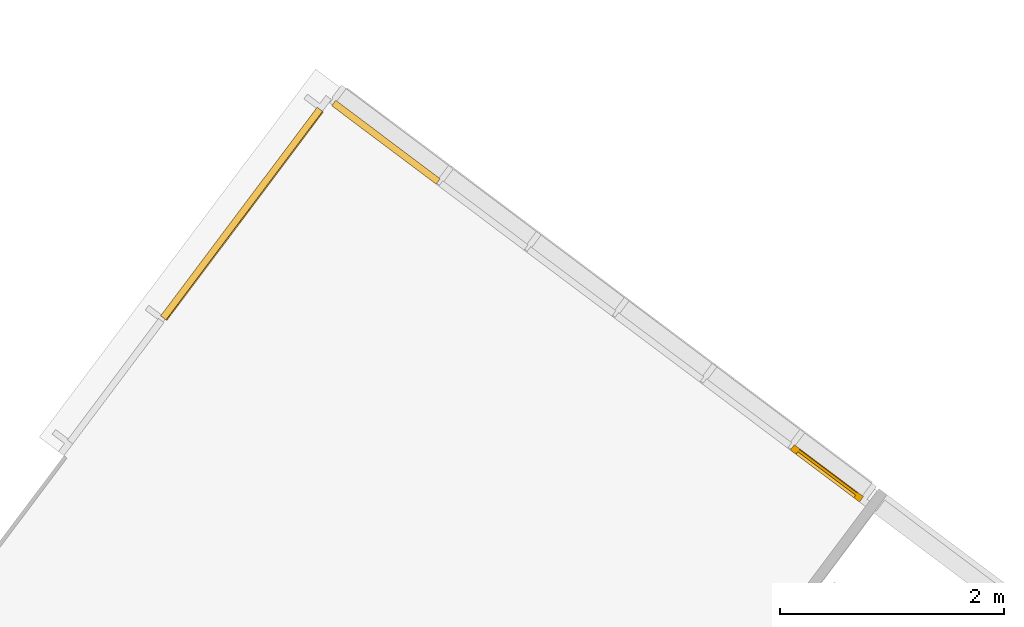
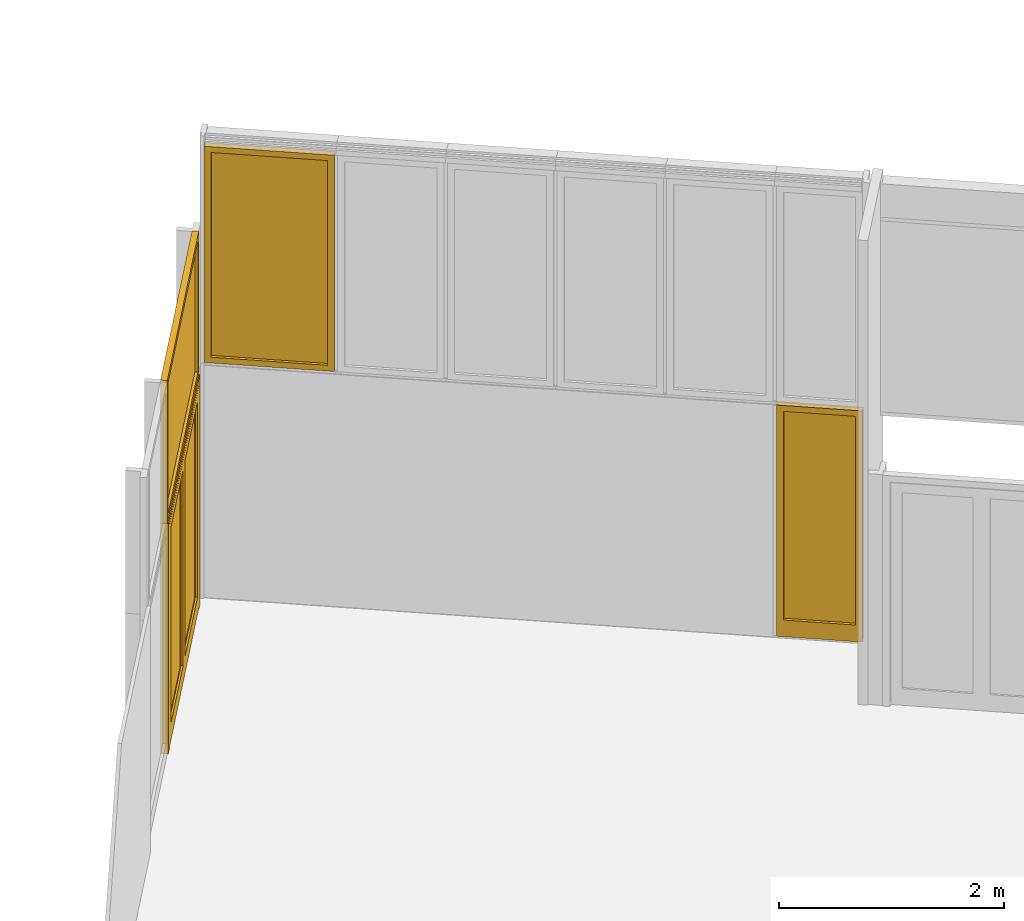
# One storey, part 13 of 15: 3 windows, 1 door, 2 elements without a shape of their own.
"""IFC2X3 building model written with IfcOpenShell, lengths in metres."""

from ifc_helpers import new_model, entity, si_unit, converted_unit, derived_unit, direction, frame, origin, place, context, subcontext, project, spatial, faceted_brep, source, transform, mapped, material, material_list, type_object, type_shapes, element, aggregate, save


model = new_model("IFC2X3")

# Units and contexts
model_context = context("Model", 3, precision=1e-05, world=origin(), true_north=direction((6.123031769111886e-17, 1.0)))
body_context = subcontext(model_context, "Body", "Model", "MODEL_VIEW")
ifc_project = project(units=[si_unit("LENGTHUNIT", "METRE"), si_unit("AREAUNIT", "SQUARE_METRE"), si_unit("VOLUMEUNIT", "CUBIC_METRE"), converted_unit("PLANEANGLEUNIT", "DEGREE", entity("IfcRatioMeasure", 0.017453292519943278), si_unit("PLANEANGLEUNIT", "RADIAN"), dimensions=[0, 0, 0, 0, 0, 0, 0]), si_unit("MASSUNIT", "GRAM", prefix="KILO"), derived_unit("MASSDENSITYUNIT", [(si_unit("MASSUNIT", "GRAM", prefix="KILO"), 1), (si_unit("LENGTHUNIT", "METRE"), -3)]), derived_unit("IONCONCENTRATIONUNIT", [(si_unit("MASSUNIT", "GRAM", prefix="KILO"), 1), (si_unit("LENGTHUNIT", "METRE"), -3)]), derived_unit("MOMENTOFINERTIAUNIT", [(si_unit("LENGTHUNIT", "METRE"), 4)]), si_unit("TIMEUNIT", "SECOND"), si_unit("FREQUENCYUNIT", "HERTZ"), si_unit("THERMODYNAMICTEMPERATUREUNIT", "DEGREE_CELSIUS"), derived_unit("THERMALTRANSMITTANCEUNIT", [(si_unit("MASSUNIT", "GRAM", prefix="KILO"), 1), (si_unit("THERMODYNAMICTEMPERATUREUNIT", "KELVIN"), -1), (si_unit("TIMEUNIT", "SECOND"), -3)]), derived_unit("THERMALCONDUCTANCEUNIT", [(si_unit("MASSUNIT", "GRAM", prefix="KILO"), 1), (si_unit("THERMODYNAMICTEMPERATUREUNIT", "KELVIN"), -1), (si_unit("TIMEUNIT", "SECOND"), -3), (si_unit("LENGTHUNIT", "METRE"), 1)]), derived_unit("VOLUMETRICFLOWRATEUNIT", [(si_unit("LENGTHUNIT", "METRE"), 3), (si_unit("TIMEUNIT", "SECOND"), -1)]), derived_unit("MASSFLOWRATEUNIT", [(si_unit("MASSUNIT", "GRAM", prefix="KILO"), 1), (si_unit("TIMEUNIT", "SECOND"), -1)]), derived_unit("ROTATIONALFREQUENCYUNIT", [(si_unit("TIMEUNIT", "SECOND"), -1)]), si_unit("ELECTRICCURRENTUNIT", "AMPERE"), si_unit("ELECTRICVOLTAGEUNIT", "VOLT"), si_unit("POWERUNIT", "WATT"), si_unit("FORCEUNIT", "NEWTON", prefix="KILO"), si_unit("ILLUMINANCEUNIT", "LUX"), si_unit("LUMINOUSFLUXUNIT", "LUMEN"), si_unit("LUMINOUSINTENSITYUNIT", "CANDELA"), derived_unit("USERDEFINED", [(si_unit("MASSUNIT", "GRAM", prefix="KILO"), -1), (si_unit("LENGTHUNIT", "METRE"), -2), (si_unit("TIMEUNIT", "SECOND"), 3), (si_unit("LUMINOUSFLUXUNIT", "LUMEN"), 1)]), derived_unit("USERDEFINED", [(si_unit("MASSUNIT", "GRAM", prefix="KILO"), 1), (si_unit("TIMEUNIT", "SECOND"), -3), (si_unit("LENGTHUNIT", "METRE"), 3), (si_unit("ELECTRICCURRENTUNIT", "AMPERE"), -2)]), derived_unit("SOUNDPOWERUNIT", [(si_unit("MASSUNIT", "GRAM", prefix="KILO"), 1), (si_unit("TIMEUNIT", "SECOND"), -3), (si_unit("LENGTHUNIT", "METRE"), 2)]), derived_unit("SOUNDPRESSUREUNIT", [(si_unit("MASSUNIT", "GRAM", prefix="KILO"), 1), (si_unit("LENGTHUNIT", "METRE"), -1), (si_unit("TIMEUNIT", "SECOND"), -2)]), derived_unit("LINEARVELOCITYUNIT", [(si_unit("LENGTHUNIT", "METRE"), 1), (si_unit("TIMEUNIT", "SECOND"), -1)]), si_unit("PRESSUREUNIT", "PASCAL"), derived_unit("USERDEFINED", [(si_unit("MASSUNIT", "GRAM", prefix="KILO"), 1), (si_unit("LENGTHUNIT", "METRE"), -2), (si_unit("TIMEUNIT", "SECOND"), -2)]), derived_unit("LINEARFORCEUNIT", [(si_unit("MASSUNIT", "GRAM", prefix="KILO"), 1), (si_unit("TIMEUNIT", "SECOND"), -2)]), derived_unit("PLANARFORCEUNIT", [(si_unit("MASSUNIT", "GRAM", prefix="KILO"), 1), (si_unit("LENGTHUNIT", "METRE"), -1), (si_unit("TIMEUNIT", "SECOND"), -2)]), derived_unit("SPECIFICHEATCAPACITYUNIT", [(si_unit("THERMODYNAMICTEMPERATUREUNIT", "KELVIN"), -1), (si_unit("LENGTHUNIT", "METRE"), 2), (si_unit("TIMEUNIT", "SECOND"), -2)]), derived_unit("HEATINGVALUEUNIT", [(si_unit("LENGTHUNIT", "METRE"), 2), (si_unit("TIMEUNIT", "SECOND"), -2)]), derived_unit("VAPORPERMEABILITYUNIT", [(si_unit("LENGTHUNIT", "METRE"), -1), (si_unit("TIMEUNIT", "SECOND"), 1)]), derived_unit("DYNAMICVISCOSITYUNIT", [(si_unit("MASSUNIT", "GRAM", prefix="KILO"), 1), (si_unit("TIMEUNIT", "SECOND"), -1), (si_unit("LENGTHUNIT", "METRE"), -1)]), derived_unit("THERMALEXPANSIONCOEFFICIENTUNIT", [(si_unit("THERMODYNAMICTEMPERATUREUNIT", "KELVIN"), -1)]), derived_unit("MODULUSOFELASTICITYUNIT", [(si_unit("MASSUNIT", "GRAM", prefix="KILO"), 1), (si_unit("LENGTHUNIT", "METRE"), -1), (si_unit("TIMEUNIT", "SECOND"), -2)]), derived_unit("ISOTHERMALMOISTURECAPACITYUNIT", [(si_unit("LENGTHUNIT", "METRE"), 3), (si_unit("MASSUNIT", "GRAM", prefix="KILO"), -1)]), derived_unit("MOISTUREDIFFUSIVITYUNIT", [(si_unit("TIMEUNIT", "SECOND"), -1), (si_unit("LENGTHUNIT", "METRE"), 2)])], contexts=[model_context])

# Site, building, storey
site_placement = place(None, frame((0.0, 0.0, 235.0), z_axis=(0.0, 0.0, 1.0), x_axis=(-0.7996477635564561, 0.6004693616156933, 0.0)))
site = spatial("IfcSite", under=ifc_project, at=site_placement, Name="Default", CompositionType="ELEMENT")
building_placement = place(site_placement, origin())
building = spatial("IfcBuilding", under=site, at=building_placement, CompositionType="ELEMENT")
storey_placement = place(building_placement, frame((0.0, 0.0, -5.4499999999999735)))
storey = spatial("IfcBuildingStorey", under=building, at=storey_placement, Name="PS1- Gimnàs", CompositionType="ELEMENT", Elevation=-5.4499999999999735)

# Curtain wall, door, window
curtain_wall_type_1 = type_object("IfcCurtainWallType", Name="Muro cortina:MC- EXT- MCv1- Portes", PredefinedType="NOTDEFINED")
curtain_wall_1_placement = place(storey_placement, frame((0.0, 0.0, 5.4499999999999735)))
curtain_wall_1 = element("IfcCurtainWall", 1, at=curtain_wall_1_placement, inside=storey, type_object=curtain_wall_type_1, Name="Muro cortina:MC- EXT- MCv1- Portes", ObjectType="Muro cortina:MC- EXT- MCv1- Portes")
ifc_material_1 = material(Name="_Alumini- T1- Perfil")
ifc_material_2 = material(Name="_Vidre")
ifc_material_list_1 = material_list([ifc_material_1, ifc_material_2])
door_style = type_object("IfcDoorStyle", Name="MC- Alu- Conjunt doble porta- 70x60 cm- +15cm- obertura ext:MC- Alu- Conjunt doble porta- 70x60 cm- +15cm- obertura ext", ConstructionType="NOTDEFINED", OperationType="DOUBLE_DOOR_SINGLE_SWING", ParameterTakesPrecedence=False, Sizeable=False, material=ifc_material_list_1)
shared_shape_1 = source(origin(), body_context, "Body", "Brep", [
    faceted_brep([(-1.0896964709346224, -0.06999999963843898, 0.02400000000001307), (-1.0896964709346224, -0.004300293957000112, 0.02400000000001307), (0.0, -0.004300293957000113, 0.02400000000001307), (0.0, -0.06999999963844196, 0.02400000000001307), (-1.0896964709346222, -0.00430029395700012, 2.4266999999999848), (-1.0896964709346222, -0.06999999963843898, 2.4266999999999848), (0.0, -0.00430029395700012, 2.4266999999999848), (0.0, -0.004300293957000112, 2.4506999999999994), (-1.1136964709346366, -0.00430029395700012, 2.450699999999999), (-1.1136964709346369, -0.00430029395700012, 0.0), (0.0, -0.004300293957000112, 0.0), (0.0, -0.06999999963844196, 2.4266999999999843), (0.0, -2.9457204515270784e-07, 0.0), (0.0, -2.9457204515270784e-07, 2.4506999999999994), (-0.9880964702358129, -0.06999999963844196, 2.3250999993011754), (-0.07659999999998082, -0.06999999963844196, 2.3250999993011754), (-0.07659999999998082, -0.06999999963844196, 0.2036000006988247), (-0.9880964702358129, -0.06999999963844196, 0.20360000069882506), (-0.07659999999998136, -0.005500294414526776, 2.3250999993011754), (-0.07659999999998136, -2.9457204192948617e-07, 2.3250999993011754), (-0.07659999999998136, -2.9457204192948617e-07, 0.20360000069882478), (-0.07659999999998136, -0.005500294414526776, 0.20360000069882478), (-1.113696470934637, -2.9457204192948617e-07, 2.4506999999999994), (-1.1136964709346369, -2.9457204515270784e-07, 0.0), (-0.9880964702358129, -2.9457204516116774e-07, 2.3250999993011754), (-0.9880964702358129, -2.9457204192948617e-07, 0.20360000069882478), (-0.9880964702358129, -0.005500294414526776, 0.2036000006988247), (-0.9880964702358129, -0.005500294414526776, 2.3250999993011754), (-0.051599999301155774, -0.005500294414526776, 2.3501000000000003), (-1.0130964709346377, -0.005500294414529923, 2.3501000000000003), (-1.0130964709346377, -0.005500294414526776, 0.17859999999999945), (-0.051599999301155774, -0.005500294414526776, 0.17859999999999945), (-1.0130964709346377, -0.051000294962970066, 2.3501000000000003), (-1.0130964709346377, -0.05100029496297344, 0.17859999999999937), (-0.051599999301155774, -0.051000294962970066, 0.17859999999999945), (-0.051599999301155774, -0.051000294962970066, 2.3501000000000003), (-0.07659999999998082, -0.051000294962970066, 2.3250999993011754), (-0.9880964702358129, -0.05100029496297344, 2.3250999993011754), (-0.9880964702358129, -0.051000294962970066, 0.20360000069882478), (-0.07659999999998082, -0.051000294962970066, 0.20360000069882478)], [[[0, 1, 2, 3]], [[4, 1, 0, 5]], [[6, 7, 8, 9, 10, 2, 1, 4]], [[7, 6, 11, 3, 2, 10, 12, 13]], [[14, 15, 16, 17], [11, 5, 0, 3]], [[18, 19, 20, 21]], [[22, 13, 12, 23], [19, 24, 25, 20]], [[26, 21, 20, 25]], [[27, 18, 21, 26], [28, 29, 30, 31]], [[24, 27, 26, 25]], [[29, 32, 33, 30]], [[34, 31, 30, 33]], [[35, 28, 31, 34]], [[32, 35, 34, 33], [36, 37, 38, 39]], [[37, 14, 17, 38]], [[17, 16, 39, 38]], [[15, 36, 39, 16]], [[9, 23, 12, 10]], [[8, 22, 23, 9]], [[4, 5, 11, 6]], [[7, 13, 22, 8]], [[27, 24, 19, 18]], [[32, 29, 28, 35]], [[14, 37, 36, 15]]], outer=[[True], [True], [True], [True], [False, True], [True], [True, False], [True], [False, True], [True], [True], [True], [True], [True, False], [True], [True], [True], [True], [True], [True], [True], [True], [True], [True]]),
    faceted_brep([(1.0896964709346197, -0.0043002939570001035, 0.024000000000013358), (1.0896964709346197, -0.069999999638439, 0.024000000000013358), (0.0, -0.06999999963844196, 0.024000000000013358), (0.0, -0.004300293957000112, 0.024000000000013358), (1.1136964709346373, -0.0043002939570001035, 0.0), (1.1136964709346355, -0.004300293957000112, 2.4506999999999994), (0.0, -0.004300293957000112, 2.4506999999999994), (0.0, -0.004300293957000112, 2.426699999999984), (1.0896964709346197, -0.004300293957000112, 2.426699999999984), (0.0, -0.0043002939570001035, 0.0), (1.0896964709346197, -0.069999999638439, 2.426699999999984), (0.0, -0.069999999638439, 2.426699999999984), (0.0765999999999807, -0.06999999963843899, 2.3250999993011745), (0.9880964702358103, -0.069999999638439, 2.3250999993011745), (0.9880964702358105, -0.069999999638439, 0.20360000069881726), (0.0765999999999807, -0.06999999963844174, 0.20360000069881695), (0.0, -2.9457204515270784e-07, 2.4506999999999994), (0.0, -2.9457204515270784e-07, 0.0), (0.9880964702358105, -2.9457204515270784e-07, 2.325099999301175), (0.07659999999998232, -2.9457204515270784e-07, 2.325099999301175), (0.07659999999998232, -2.9457204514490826e-07, 0.20360000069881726), (0.9880964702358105, -2.9457204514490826e-07, 0.2036000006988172), (1.1136964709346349, -2.9457204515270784e-07, 2.450699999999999), (1.1136964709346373, -2.9457204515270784e-07, 0.0), (0.9880964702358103, -0.005500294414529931, 2.325099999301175), (0.9880964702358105, -0.005500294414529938, 0.2036000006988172), (0.07659999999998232, -0.005500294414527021, 0.20360000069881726), (1.0130964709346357, -0.005500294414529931, 2.3501000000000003), (0.05159999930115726, -0.005500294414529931, 2.3501000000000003), (0.05159999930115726, -0.005500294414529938, 0.17859999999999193), (1.0130964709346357, -0.005500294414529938, 0.17859999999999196), (0.07659999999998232, -0.005500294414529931, 2.3250999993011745), (1.0130964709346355, -0.05100029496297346, 2.3501000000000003), (1.0130964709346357, -0.05100029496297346, 0.17859999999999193), (0.9880964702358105, -0.05100029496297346, 2.325099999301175), (0.0765999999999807, -0.05100029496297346, 2.325099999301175), (0.0765999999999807, -0.05100029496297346, 0.20360000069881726), (0.9880964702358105, -0.05100029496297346, 0.2036000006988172), (0.05159999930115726, -0.051000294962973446, 2.3501), (0.05159999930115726, -0.051000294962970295, 0.17859999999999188)], [[[0, 1, 2, 3]], [[4, 5, 6, 7, 8, 0, 3, 9]], [[1, 0, 8, 10]], [[10, 11, 2, 1], [12, 13, 14, 15]], [[6, 16, 17, 9, 3, 2, 11, 7]], [[18, 19, 20, 21], [17, 16, 22, 23]], [[22, 5, 4, 23]], [[24, 18, 21, 25]], [[21, 20, 26, 25]], [[27, 28, 29, 30], [31, 24, 25, 26]], [[32, 27, 30, 33]], [[34, 35, 36, 37], [38, 32, 33, 39]], [[33, 30, 29, 39]], [[13, 34, 37, 14]], [[37, 36, 15, 14]], [[19, 31, 26, 20]], [[28, 38, 39, 29]], [[35, 12, 15, 36]], [[5, 22, 16, 6]], [[18, 24, 31, 19]], [[27, 32, 38, 28]], [[34, 13, 12, 35]], [[10, 8, 7, 11]], [[9, 17, 23, 4]]], outer=[[True], [True], [True], [True, False], [True], [False, True], [True], [True], [True], [True, False], [True], [False, True], [True], [True], [True], [True], [True], [True], [True], [True], [True], [True], [True], [True]]),
    faceted_brep([(0.05159999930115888, -0.009100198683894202, 0.17859999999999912), (1.0130964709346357, -0.009100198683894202, 0.17859999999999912), (1.0130964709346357, -0.04110019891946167, 0.17859999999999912), (0.05159999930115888, -0.04110019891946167, 0.17859999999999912), (0.05159999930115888, -0.009100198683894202, 2.375100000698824), (1.0130964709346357, -0.009100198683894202, 2.375100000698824), (1.0130964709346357, -0.04110019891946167, 2.375100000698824), (0.05159999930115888, -0.04110019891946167, 2.375100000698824)], [[[0, 1, 2, 3]], [[4, 5, 1, 0]], [[5, 6, 2, 1]], [[6, 7, 3, 2]], [[7, 4, 0, 3]], [[4, 7, 6, 5]]]),
    faceted_brep([(-0.051599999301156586, -0.009100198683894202, 0.17859999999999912), (-0.051599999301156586, -0.04110019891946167, 0.17859999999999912), (-1.0130964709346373, -0.04110019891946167, 0.17859999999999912), (-1.0130964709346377, -0.009100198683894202, 0.17859999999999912), (-0.051599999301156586, -0.009100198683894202, 2.375100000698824), (-0.051599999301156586, -0.04110019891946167, 2.375100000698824), (-1.0130964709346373, -0.04110019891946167, 2.375100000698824), (-1.0130964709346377, -0.009100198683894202, 2.375100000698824)], [[[0, 1, 2, 3]], [[4, 5, 1, 0]], [[5, 6, 2, 1]], [[6, 7, 3, 2]], [[7, 4, 0, 3]], [[4, 7, 6, 5]]]),
    faceted_brep([(1.1629964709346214, 0.0, 0.0), (1.1629964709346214, -0.06999999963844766, 0.0), (1.0956964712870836, -0.06999999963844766, 0.0), (1.0956964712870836, -0.061199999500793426, 0.0), (1.111196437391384, -0.061199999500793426, 0.0), (1.111196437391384, -0.010300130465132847, 0.0), (1.121696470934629, -0.010300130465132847, 0.0), (1.121696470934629, 0.0, 0.0), (1.1629964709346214, 0.0, 2.499999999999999), (1.1629964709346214, -0.06999999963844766, 2.499999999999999), (-1.1629964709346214, -0.06999999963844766, 2.499999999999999), (-1.1629964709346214, -0.06999999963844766, 0.0), (-1.0956964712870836, -0.06999999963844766, 0.0), (-1.0956964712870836, -0.06999999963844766, 2.4327000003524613), (1.0956964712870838, -0.06999999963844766, 2.4327000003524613), (1.0956964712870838, -0.061199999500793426, 2.4327000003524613), (-1.0956964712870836, -0.061199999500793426, 2.4327000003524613), (-1.0956964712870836, -0.061199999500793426, 0.0), (-1.1111964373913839, -0.061199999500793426, 0.0), (-1.1111964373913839, -0.061199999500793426, 2.4481999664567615), (1.1111964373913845, -0.061199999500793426, 2.4481999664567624), (1.1111964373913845, -0.010300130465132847, 2.4481999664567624), (-1.1111964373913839, -0.010300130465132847, 2.4481999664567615), (-1.1111964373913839, -0.010300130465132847, 0.0), (-1.1216964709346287, -0.010300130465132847, 0.0), (-1.1216964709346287, -0.010300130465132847, 2.4587000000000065), (1.1216964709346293, -0.010300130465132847, 2.4587000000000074), (1.1216964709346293, 0.0, 2.4587000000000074), (-1.1216964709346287, 0.0, 2.4587000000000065), (-1.1216964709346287, 0.0, 0.0), (-1.1629964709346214, 0.0, 0.0), (-1.1629964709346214, 0.0, 2.499999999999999)], [[[0, 1, 2, 3, 4, 5, 6, 7]], [[1, 0, 8, 9]], [[2, 1, 9, 10, 11, 12, 13, 14]], [[3, 2, 14, 15]], [[4, 3, 15, 16, 17, 18, 19, 20]], [[5, 4, 20, 21]], [[6, 5, 21, 22, 23, 24, 25, 26]], [[7, 6, 26, 27]], [[0, 7, 27, 28, 29, 30, 31, 8]], [[30, 29, 24, 23, 18, 17, 12, 11]], [[28, 25, 24, 29]], [[22, 19, 18, 23]], [[16, 13, 12, 17]], [[10, 31, 30, 11]], [[9, 8, 31, 10]], [[15, 14, 13, 16]], [[21, 20, 19, 22]], [[27, 26, 25, 28]]]),
])
type_shapes(door_style, [shared_shape_1])
door_placement = place(curtain_wall_1_placement, frame((15.730147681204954, -38.05319528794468, -5.449999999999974), z_axis=(0.0, 0.0, 1.0), x_axis=(0.0, -1.0, 0.0)))
door = element("IfcDoor", 2, at=door_placement, type_object=door_style, material=ifc_material_list_1, Name="MC- Alu- Conjunt doble porta- 70x60 cm- +15cm- obertura ext:MC- Alu- Conjunt doble porta- 70x60 cm- +15cm- obertura ext", ObjectType="MC- Alu- Conjunt doble porta- 70x60 cm- +15cm- obertura ext:MC- Alu- Conjunt doble porta- 70x60 cm- +15cm- obertura ext", OverallHeight=2.5000000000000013, OverallWidth=2.325992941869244, context=body_context, shape_type="MappedRepresentation", body=[
    mapped(shared_shape_1, transform((0.0, 0.0, 0.0), scale=1.0)),
])
ifc_material_list_2 = material_list([ifc_material_2, ifc_material_1])
window_style_1 = type_object("IfcWindowStyle", Name="MC- Alu- Conjunt vidre fix- 62x60 cm:MC- Alu- Conjunt vidre fix- 62x60 cm", ConstructionType="NOTDEFINED", OperationType="NOTDEFINED", ParameterTakesPrecedence=False, Sizeable=False, material=ifc_material_list_2)
shared_shape_2 = source(origin(), body_context, "Body", "Brep", [
    faceted_brep([(-1.114189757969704, -0.007600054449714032, 0.048806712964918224), (1.114189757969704, -0.007600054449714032, 0.048806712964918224), (1.1141897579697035, -0.03160022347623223, 0.048806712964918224), (-1.1141897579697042, -0.03160022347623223, 0.048806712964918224), (-1.114189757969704, -0.007600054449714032, 1.4965557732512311), (1.114189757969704, -0.007600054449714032, 1.4965557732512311), (1.1141897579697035, -0.03160022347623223, 1.4965557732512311), (-1.1141897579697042, -0.03160022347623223, 1.4965557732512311)], [[[0, 1, 2, 3]], [[4, 5, 1, 0]], [[5, 6, 2, 1]], [[6, 7, 3, 2]], [[7, 4, 0, 3]], [[4, 7, 6, 5]]]),
    faceted_brep([(-1.162996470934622, -0.05999999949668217, 1.545555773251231), (-1.162996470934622, 0.0, 1.545555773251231), (-1.162996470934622, 0.0, 0.0), (-1.162996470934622, -0.05999999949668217, 0.0), (-1.100189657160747, 0.0, 1.482748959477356), (-1.100189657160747, 0.0, 0.06280681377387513), (1.100189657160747, 0.0, 0.06280681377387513), (1.100189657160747, 0.0, 1.482748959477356), (1.162996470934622, 0.0, 1.545555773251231), (1.162996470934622, 0.0, 0.0), (1.162996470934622, -0.05999999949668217, 0.0), (1.162996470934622, -0.05999999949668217, 1.545555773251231), (1.1001925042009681, -0.05999999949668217, 1.482751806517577), (1.1001925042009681, -0.05999999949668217, 0.06280396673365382), (-1.1001925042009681, -0.05999999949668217, 0.06280396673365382), (-1.1001925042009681, -0.05999999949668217, 1.482751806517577), (-1.1001925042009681, -0.03160022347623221, 1.482751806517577), (-1.1001925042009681, -0.03160022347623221, 0.06280396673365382), (1.1001925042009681, -0.03160022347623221, 0.06280396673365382), (1.1001925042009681, -0.03160022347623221, 1.482751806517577), (1.114189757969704, -0.03160022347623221, 1.496749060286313), (1.114189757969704, -0.03160022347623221, 0.048806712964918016), (-1.114189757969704, -0.03160022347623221, 0.04880671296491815), (-1.114189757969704, -0.03160022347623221, 1.496749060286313), (-1.114189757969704, -0.007600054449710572, 1.496749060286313), (-1.114189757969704, -0.007600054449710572, 0.04880671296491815), (1.114189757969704, -0.007600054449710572, 0.048806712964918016), (1.114189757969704, -0.007600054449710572, 1.496749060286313), (1.100189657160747, -0.007600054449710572, 1.482748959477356), (1.100189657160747, -0.007600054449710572, 0.062806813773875), (-1.100189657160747, -0.007600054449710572, 0.06280681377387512), (-1.100189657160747, -0.007600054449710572, 1.482748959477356)], [[[0, 1, 2, 3]], [[4, 5, 6, 7], [8, 9, 2, 1]], [[3, 2, 9, 10]], [[0, 3, 10, 11], [12, 13, 14, 15]], [[16, 15, 14, 17]], [[17, 14, 13, 18]], [[16, 17, 18, 19], [20, 21, 22, 23]], [[24, 23, 22, 25]], [[25, 22, 21, 26]], [[24, 25, 26, 27], [28, 29, 30, 31]], [[4, 31, 30, 5]], [[5, 30, 29, 6]], [[10, 9, 8, 11]], [[18, 13, 12, 19]], [[26, 21, 20, 27]], [[6, 29, 28, 7]], [[11, 8, 1, 0]], [[19, 12, 15, 16]], [[27, 20, 23, 24]], [[7, 28, 31, 4]]], outer=[[True], [False, True], [True], [True, False], [True], [True], [False, True], [True], [True], [True, False], [True], [True], [True], [True], [True], [True], [True], [True], [True], [True]]),
])
type_shapes(window_style_1, [shared_shape_2])
window_1_placement = place(curtain_wall_1_placement, frame((15.730147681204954, -38.05319528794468, -2.949999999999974), z_axis=(0.0, 0.0, 1.0), x_axis=(0.0, -1.0, 0.0)))
window_1 = element("IfcWindow", 3, at=window_1_placement, type_object=window_style_1, material=ifc_material_list_2, Name="MC- Alu- Conjunt vidre fix- 62x60 cm:MC- Alu- Conjunt vidre fix- 62x60 cm", ObjectType="MC- Alu- Conjunt vidre fix- 62x60 cm:MC- Alu- Conjunt vidre fix- 62x60 cm", OverallHeight=1.545555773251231, OverallWidth=2.325992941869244, context=body_context, shape_type="MappedRepresentation", body=[
    mapped(shared_shape_2, transform((0.0, 0.0, 0.0), scale=1.0)),
])
aggregate(curtain_wall_1, [door, window_1])

# Curtain wall, windows
curtain_wall_type_2 = type_object("IfcCurtainWallType", Name="Muro cortina:MC- EXT- MCv1- frontal", PredefinedType="NOTDEFINED")
curtain_wall_2_placement = place(storey_placement, frame((0.0, 0.0, 5.4499999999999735)))
curtain_wall_2 = element("IfcCurtainWall", 4, at=curtain_wall_2_placement, inside=storey, type_object=curtain_wall_type_2, Name="Muro cortina:MC- EXT- MCv1- frontal", ObjectType="Muro cortina:MC- EXT- MCv1- frontal")
window_style_2 = type_object("IfcWindowStyle", Name="MC- Alu- Conjunt vidre fix- 62x60 cm- +15cm:MC- Alu- Conjunt vidre fix- 62x60 cm- +15cm", ConstructionType="NOTDEFINED", OperationType="NOTDEFINED", ParameterTakesPrecedence=False, Sizeable=False, material=ifc_material_list_1)
shared_shape_3 = source(origin(), body_context, "Body", "Brep", [
    faceted_brep([(0.3853749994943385, -0.05999999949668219, 0.0), (0.3853749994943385, 0.0, 0.0), (0.3853749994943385, 0.0, 2.5026999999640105), (0.3853749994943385, -0.05999999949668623, 2.5026999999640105), (-0.3853749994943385, 0.0, 0.0), (-0.3853749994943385, -0.05999999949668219, 0.0), (-0.3853749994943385, 0.0, 2.5026999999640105), (-0.3225681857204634, 0.0, 0.1800028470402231), (0.3225681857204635, 0.0, 0.1800028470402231), (0.3225681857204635, 0.0, 2.4398931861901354), (-0.3225681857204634, 0.0, 2.4398931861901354), (-0.3853749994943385, -0.05999999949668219, 2.5026999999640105), (0.32257103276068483, -0.05999999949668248, 0.18000000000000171), (-0.3225710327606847, -0.05999999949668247, 0.18000000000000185), (-0.3225710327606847, -0.05999999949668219, 2.4398960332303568), (0.3225710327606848, -0.05999999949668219, 2.4398960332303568), (-0.3225681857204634, -0.00760005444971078, 0.180002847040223), (0.3225681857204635, -0.00760005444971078, 0.18000284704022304), (0.3225681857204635, -0.007600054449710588, 2.4398931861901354), (-0.3225681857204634, -0.007600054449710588, 2.4398931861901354), (0.3365682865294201, -0.007600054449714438, 2.453893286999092), (-0.3365682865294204, -0.007600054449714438, 2.453893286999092), (-0.33656828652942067, -0.0076000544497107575, 0.16619603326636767), (0.33656828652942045, -0.0076000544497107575, 0.16619603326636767), (-0.33656828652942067, -0.0316002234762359, 2.453893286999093), (-0.33656828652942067, -0.03160022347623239, 0.16619603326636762), (0.33656828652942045, -0.03160022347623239, 0.16619603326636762), (0.33656828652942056, -0.03160022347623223, 2.453893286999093), (-0.3225710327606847, -0.03160022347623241, 0.1800000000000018), (0.32257103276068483, -0.03160022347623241, 0.1800000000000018), (0.3225710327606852, -0.03160022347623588, 2.439896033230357), (-0.3225710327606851, -0.03160022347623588, 2.439896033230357)], [[[0, 1, 2, 3]], [[4, 1, 0, 5]], [[2, 1, 4, 6], [7, 8, 9, 10]], [[0, 3, 11, 5], [12, 13, 14, 15]], [[11, 6, 4, 5]], [[8, 7, 16, 17]], [[18, 9, 8, 17]], [[10, 19, 16, 7]], [[17, 16, 19, 18], [20, 21, 22, 23]], [[22, 21, 24, 25]], [[23, 22, 25, 26]], [[26, 27, 20, 23]], [[28, 29, 30, 31], [24, 27, 26, 25]], [[29, 28, 13, 12]], [[15, 30, 29, 12]], [[31, 14, 13, 28]], [[3, 2, 6, 11]], [[9, 18, 19, 10]], [[20, 27, 24, 21]], [[30, 15, 14, 31]]], outer=[[True], [True], [True, False], [True, False], [True], [True], [True], [True], [False, True], [True], [True], [True], [False, True], [True], [True], [True], [True], [True], [True], [True]]),
    faceted_brep([(-0.33656828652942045, -0.007600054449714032, 0.1661960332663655), (0.33656828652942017, -0.007600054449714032, 0.1661960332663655), (0.33656828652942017, -0.03160022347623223, 0.1661960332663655), (-0.33656828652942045, -0.03160022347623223, 0.1661960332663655), (-0.33656828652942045, -0.007600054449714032, 2.453699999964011), (0.33656828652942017, -0.007600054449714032, 2.453699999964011), (0.33656828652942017, -0.03160022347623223, 2.453699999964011), (-0.33656828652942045, -0.03160022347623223, 2.453699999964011)], [[[0, 1, 2, 3]], [[4, 5, 1, 0]], [[5, 6, 2, 1]], [[6, 7, 3, 2]], [[7, 4, 0, 3]], [[4, 7, 6, 5]]]),
])
type_shapes(window_style_2, [shared_shape_3])
window_2_placement = place(curtain_wall_2_placement, frame((10.134772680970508, -39.3651917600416, -5.417699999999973), z_axis=(0.0, 0.0, 1.0), x_axis=(-1.0, 0.0, 0.0)))
window_2 = element("IfcWindow", 5, at=window_2_placement, type_object=window_style_2, material=ifc_material_list_1, Name="MC- Alu- Conjunt vidre fix- 62x60 cm- +15cm:MC- Alu- Conjunt vidre fix- 62x60 cm- +15cm", ObjectType="MC- Alu- Conjunt vidre fix- 62x60 cm- +15cm:MC- Alu- Conjunt vidre fix- 62x60 cm- +15cm", OverallHeight=2.5026999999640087, OverallWidth=0.770749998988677, context=body_context, shape_type="MappedRepresentation", body=[
    mapped(shared_shape_3, transform((0.0, 0.0, 0.0), scale=1.0)),
])
window_style_3 = type_object("IfcWindowStyle", Name="MC- Alu- Conjunt vidre fix- 62x60 cm:MC- Alu- Conjunt vidre fix- 62x60 cm", ConstructionType="NOTDEFINED", OperationType="NOTDEFINED", ParameterTakesPrecedence=False, Sizeable=False, material=ifc_material_list_1)
shared_shape_4 = source(origin(), body_context, "Body", "Brep", [
    faceted_brep([(-0.5823749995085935, -0.05999999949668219, 2.342499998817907), (-0.5823749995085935, 0.0, 2.342499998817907), (-0.5823749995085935, 0.0, 0.0), (-0.5823749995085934, -0.05999999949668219, 0.0), (-0.5195681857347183, 0.0, 2.279693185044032), (-0.5195681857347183, 0.0, 0.06280681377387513), (0.5195681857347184, 0.0, 0.06280681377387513), (0.5195681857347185, 0.0, 2.279693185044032), (0.5823749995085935, 0.0, 2.342499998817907), (0.5823749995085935, 0.0, 0.0), (0.5823749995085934, -0.05999999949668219, 0.0), (0.5823749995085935, -0.05999999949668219, 2.342499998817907), (0.5195710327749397, -0.05999999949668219, 2.2796960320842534), (0.5195710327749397, -0.05999999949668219, 0.0628039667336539), (-0.5195710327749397, -0.05999999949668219, 0.06280396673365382), (-0.5195710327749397, -0.05999999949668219, 2.2796960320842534), (-0.5195710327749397, -0.03160022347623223, 2.2796960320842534), (-0.5195710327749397, -0.03160022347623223, 0.06280396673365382), (0.5195710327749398, -0.03160022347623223, 0.06280396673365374), (0.5195710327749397, -0.03160022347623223, 2.2796960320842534), (0.5335682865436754, -0.03160022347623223, 2.293693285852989), (0.5335682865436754, -0.03160022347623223, 0.048806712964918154), (-0.5335682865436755, -0.03160022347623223, 0.04880671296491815), (-0.5335682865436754, -0.03160022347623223, 2.293693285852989), (-0.5335682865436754, -0.007600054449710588, 2.293693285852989), (-0.5335682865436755, -0.007600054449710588, 0.04880671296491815), (0.5335682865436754, -0.007600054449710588, 0.048806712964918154), (0.5335682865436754, -0.007600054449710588, 2.293693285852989), (0.5195681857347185, -0.007600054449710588, 2.279693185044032), (0.5195681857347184, -0.007600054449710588, 0.0628068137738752), (-0.5195681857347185, -0.007600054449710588, 0.06280681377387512), (-0.5195681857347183, -0.007600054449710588, 2.279693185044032)], [[[0, 1, 2, 3]], [[4, 5, 6, 7], [8, 9, 2, 1]], [[3, 2, 9, 10]], [[0, 3, 10, 11], [12, 13, 14, 15]], [[16, 15, 14, 17]], [[17, 14, 13, 18]], [[16, 17, 18, 19], [20, 21, 22, 23]], [[24, 23, 22, 25]], [[25, 22, 21, 26]], [[24, 25, 26, 27], [28, 29, 30, 31]], [[4, 31, 30, 5]], [[5, 30, 29, 6]], [[10, 9, 8, 11]], [[18, 13, 12, 19]], [[26, 21, 20, 27]], [[6, 29, 28, 7]], [[11, 8, 1, 0]], [[19, 12, 15, 16]], [[27, 20, 23, 24]], [[7, 28, 31, 4]]], outer=[[True], [False, True], [True], [True, False], [True], [True], [False, True], [True], [True], [True, False], [True], [True], [True], [True], [True], [True], [True], [True], [True], [True]]),
    faceted_brep([(-0.5335682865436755, -0.007600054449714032, 0.048806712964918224), (0.5335682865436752, -0.007600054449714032, 0.048806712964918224), (0.5335682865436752, -0.03160022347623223, 0.048806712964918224), (-0.5335682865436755, -0.03160022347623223, 0.048806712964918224), (-0.5335682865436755, -0.007600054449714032, 2.2934999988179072), (0.5335682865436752, -0.007600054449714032, 2.2934999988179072), (0.5335682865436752, -0.03160022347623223, 2.2934999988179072), (-0.5335682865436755, -0.03160022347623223, 2.2934999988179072)], [[[0, 1, 2, 3]], [[4, 5, 1, 0]], [[5, 6, 2, 1]], [[6, 7, 3, 2]], [[7, 4, 0, 3]], [[4, 7, 6, 5]]]),
])
type_shapes(window_style_3, [shared_shape_4])
window_3_placement = place(curtain_wall_2_placement, frame((15.052522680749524, -39.3651917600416, -2.8849999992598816), z_axis=(0.0, 0.0, 1.0), x_axis=(-1.0, 0.0, 0.0)))
window_3 = element("IfcWindow", 6, at=window_3_placement, type_object=window_style_3, material=ifc_material_list_1, Name="MC- Alu- Conjunt vidre fix- 62x60 cm:MC- Alu- Conjunt vidre fix- 62x60 cm", ObjectType="MC- Alu- Conjunt vidre fix- 62x60 cm:MC- Alu- Conjunt vidre fix- 62x60 cm", OverallHeight=2.342499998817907, OverallWidth=1.1647499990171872, context=body_context, shape_type="MappedRepresentation", body=[
    mapped(shared_shape_4, transform((0.0, 0.0, 0.0), scale=1.0)),
])
aggregate(curtain_wall_2, [window_2, window_3])

save(model, "model.ifc")
